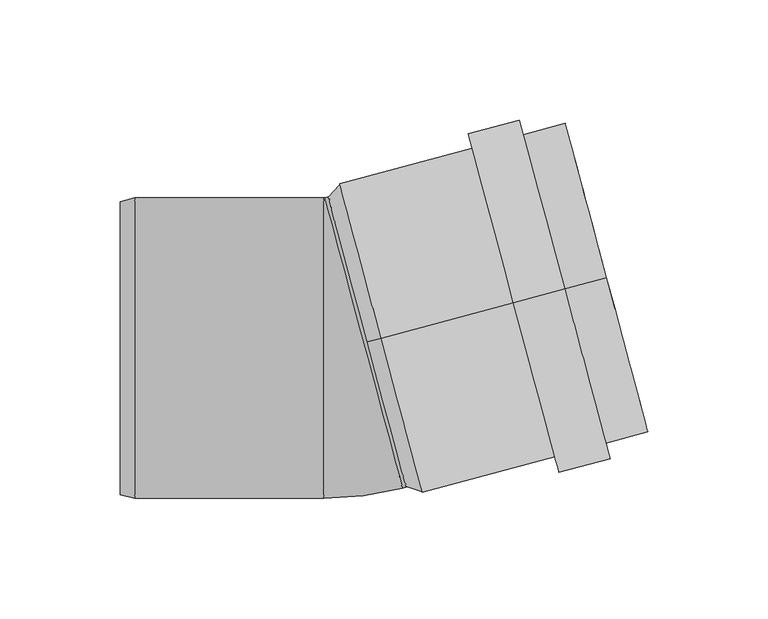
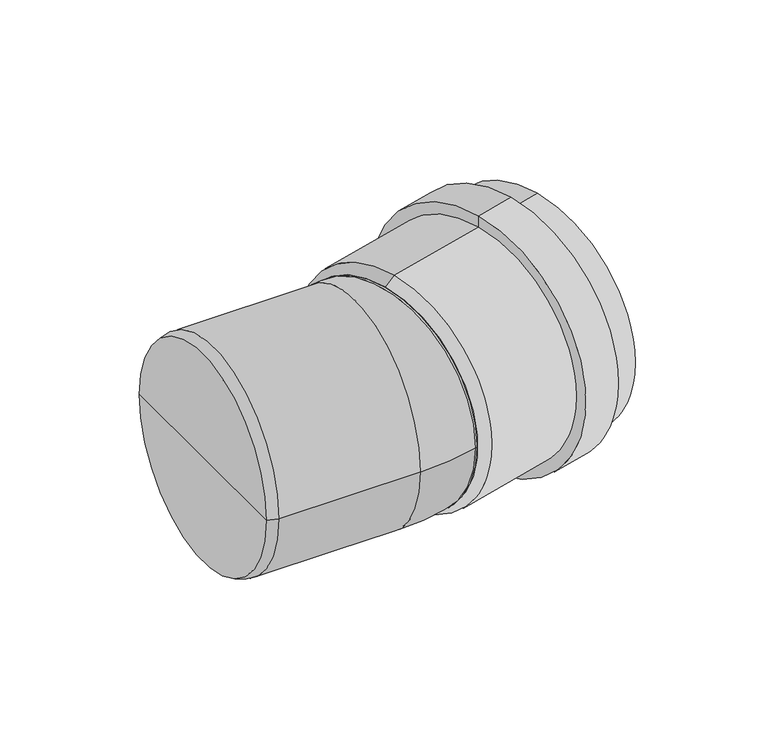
"""IFC4 building model written with IfcOpenShell, lengths in millimetres: pipe fitting geometry, OSMA_KG2000_PPKGB : Koleno 15°."""

import ifcopenshell
import ifcopenshell.guid

model = None  # the IFC model being written
_history = None  # IfcOwnerHistory: only IFC2X3 demands one
_inside = {}  # id of a spatial element -> (the spatial element, [elements in it])
_under = {}  # id of a project, library or spatial element -> (it, [spatial elements below it])
_declared = {}  # id of a project -> (the project, [libraries it declares])
_typed = {}  # id of a type object -> (the type object, [elements of that type])
_made_of = {}  # id of a material, layer set ... -> (it, [elements and type objects made of it])


def new_model(schema):
    """Start an empty IFC model of exactly this schema.

    Asked for "IFC4X3", IfcOpenShell would pick the latest addendum, in which some entities
    have other attributes; the version numbers below select the first issue.
    IFC2X3 requires an IfcOwnerHistory on every rooted entity: one is made here for all.
    """
    global model, _history
    if schema == "IFC4X3":
        model = ifcopenshell.file(schema_version=(4, 3, 0, 0))
    else:
        model = ifcopenshell.file(schema=schema)
    _inside.clear()
    _under.clear()
    _declared.clear()
    _typed.clear()
    _made_of.clear()
    _history = None
    if model.schema == "IFC2X3":
        org = make("IfcOrganization", Name="unknown")
        user = make(
            "IfcPersonAndOrganization",
            ThePerson=make("IfcPerson", FamilyName="unknown"),
            TheOrganization=org,
        )
        app = make(
            "IfcApplication",
            ApplicationDeveloper=org,
            Version="unknown",
            ApplicationFullName="unknown",
            ApplicationIdentifier="unknown",
        )
        _history = make(
            "IfcOwnerHistory",
            OwningUser=user,
            OwningApplication=app,
            ChangeAction="ADDED",
            CreationDate=0,
        )
    return model


def make(cls, **values):
    """One entity of the class cls with the attributes given. An attribute that is None is left unset."""
    return model.create_entity(
        cls, **{name: value for name, value in values.items() if value is not None}
    )


def rooted(cls, **values):
    """An entity with a GlobalId (a new one), such as an element, a storey or a relation."""
    return make(cls, GlobalId=ifcopenshell.guid.new(), OwnerHistory=_history, **values)


def si_unit(unit_type, name, prefix=None):
    """IfcSIUnit, for example si_unit("LENGTHUNIT", "METRE", prefix="MILLI")."""
    return make("IfcSIUnit", UnitType=unit_type, Prefix=prefix, Name=name)


def assignment(units):
    """IfcUnitAssignment: the units of a project."""
    return None if units is None else make("IfcUnitAssignment", Units=units)


def point(xyz):
    """IfcCartesianPoint."""
    return None if xyz is None else make("IfcCartesianPoint", Coordinates=xyz)


def direction(xyz):
    """IfcDirection."""
    return None if xyz is None else make("IfcDirection", DirectionRatios=xyz)


def frame(location, z_axis=None, x_axis=None):
    """IfcAxis2Placement3D, a coordinate frame: its origin and axes. An axis left out is left unset."""
    return make(
        "IfcAxis2Placement3D",
        Location=point(location),
        Axis=direction(z_axis),
        RefDirection=direction(x_axis),
    )


def origin():
    """The frame at (0, 0, 0) with its axes left unset."""
    return frame((0.0, 0.0, 0.0))


def place(relative_to, where):
    """IfcLocalPlacement: puts the frame where relative to a parent placement (None: the world)."""
    return make(
        "IfcLocalPlacement", PlacementRelTo=relative_to, RelativePlacement=where
    )


def context(
    kind, dimensions, precision=None, world=None, true_north=None, identifier=None
):
    """IfcGeometricRepresentationContext, for example the 3D "Model" context."""
    return make(
        "IfcGeometricRepresentationContext",
        ContextIdentifier=identifier,
        ContextType=kind,
        CoordinateSpaceDimension=dimensions,
        Precision=precision,
        WorldCoordinateSystem=world,
        TrueNorth=true_north,
    )


def project(units=None, contexts=None):
    """IfcProject with its units and contexts."""
    return rooted(
        "IfcProject",
        Name="project",
        RepresentationContexts=contexts,
        UnitsInContext=assignment(units),
    )


def spatial(cls, under=None, at=None, **own):
    """A site, building, storey or space (cls), placed at a placement, below another one or the project."""
    s = rooted(cls, ObjectPlacement=at, **own)
    if under is not None:
        _under.setdefault(under.id(), (under, []))[1].append(s)
    return s


def polyline(points):
    """IfcPolyline through the points."""
    return make("IfcPolyline", Points=[point(p) for p in points])


def circle_curve(where, radius):
    """IfcCircle in the frame where."""
    return make("IfcCircle", Position=where, Radius=radius)


def ellipse_curve(where, semi_axis1, semi_axis2):
    """IfcEllipse in the frame where."""
    return make(
        "IfcEllipse", Position=where, SemiAxis1=semi_axis1, SemiAxis2=semi_axis2
    )


def trimmed(basis, trim1, trim2, sense, master):
    """IfcTrimmedCurve: the piece of a basis curve between two trims."""
    return make(
        "IfcTrimmedCurve",
        BasisCurve=basis,
        Trim1=trim1,
        Trim2=trim2,
        SenseAgreement=sense,
        MasterRepresentation=master,
    )


def shape(context_of_items, identifier, shape_type, items):
    """IfcShapeRepresentation: the items that make up one representation, for example the "Body"."""
    return make(
        "IfcShapeRepresentation",
        ContextOfItems=context_of_items,
        RepresentationIdentifier=identifier,
        RepresentationType=shape_type,
        Items=items,
    )


def source(mapping_origin, context_of_items, identifier, shape_type, items):
    """IfcRepresentationMap: a shape defined once, which mapped items show again and again."""
    return make(
        "IfcRepresentationMap",
        MappingOrigin=mapping_origin,
        MappedRepresentation=shape(context_of_items, identifier, shape_type, items),
    )


def transform(
    local_origin,
    x_axis=None,
    y_axis=None,
    z_axis=None,
    scale=None,
    scale2=None,
    scale3=None,
    uniform=True,
):
    """IfcCartesianTransformationOperator3D, or its non-uniform kind. x_axis, y_axis, z_axis: its Axis1, 2, 3."""
    if uniform:
        return make(
            "IfcCartesianTransformationOperator3D",
            Axis1=direction(x_axis),
            Axis2=direction(y_axis),
            LocalOrigin=point(local_origin),
            Scale=scale,
            Axis3=direction(z_axis),
        )
    return make(
        "IfcCartesianTransformationOperator3DnonUniform",
        Axis1=direction(x_axis),
        Axis2=direction(y_axis),
        LocalOrigin=point(local_origin),
        Scale=scale,
        Axis3=direction(z_axis),
        Scale2=scale2,
        Scale3=scale3,
    )


def mapped(mapping_source, mapping_target):
    """IfcMappedItem: shows the shape of a source again, moved by a transform."""
    return make(
        "IfcMappedItem", MappingSource=mapping_source, MappingTarget=mapping_target
    )


def made_of(thing, what):
    """Note that an element or type object is made of a material, layer set ...; save() writes the relation."""
    if what is not None:
        _made_of.setdefault(what.id(), (what, []))[1].append(thing)
    return thing


def element(
    cls,
    number,
    at=None,
    inside=None,
    cuts=None,
    type_object=None,
    material=None,
    context=None,
    identifier="Body",
    shape_type=None,
    held_by="IfcProductDefinitionShape",
    body=None,
    shapes=None,
    **own,
):
    """One element of the class cls, such as IfcWall. Its Tag is "e" and its number.

    at: its placement. inside: the storey or other place that contains it. cuts: it is an
    opening in that element (IfcRelVoidsElement). A single representation is given by context,
    identifier, shape_type and body (its items); several are given by shapes. held_by: the class
    of the entity that holds the representations. save() writes the other relations.
    """
    e = rooted(cls, Tag="e%d" % number, ObjectPlacement=at, **own)
    if body is not None:
        shapes = [shape(context, identifier, shape_type, body)]
    if shapes is not None:
        e.Representation = make(held_by, Representations=shapes)
    if inside is not None:
        _inside.setdefault(inside.id(), (inside, []))[1].append(e)
    if cuts is not None:
        rooted(
            "IfcRelVoidsElement", RelatingBuildingElement=cuts, RelatedOpeningElement=e
        )
    if type_object is not None:
        _typed.setdefault(type_object.id(), (type_object, []))[1].append(e)
    return made_of(e, material)


def aggregate(whole, parts):
    """IfcRelAggregates: a whole, such as a stair, and the parts it consists of."""
    return rooted("IfcRelAggregates", RelatingObject=whole, RelatedObjects=parts)


def save(model, path):
    """Write the relations noted so far, then the file.

    IfcRelAggregates (storeys below a building ...), IfcRelContainedInSpatialStructure (elements
    in a storey), IfcRelDefinesByType, IfcRelAssociatesMaterial and IfcRelDeclares: one each for
    every whole, place, type object, material and project.
    """
    for whole, parts in _under.values():
        aggregate(whole, parts)
    for where, things in _inside.values():
        rooted(
            "IfcRelContainedInSpatialStructure",
            RelatedElements=things,
            RelatingStructure=where,
        )
    for kind, things in _typed.values():
        rooted("IfcRelDefinesByType", RelatedObjects=things, RelatingType=kind)
    for what, things in _made_of.values():
        rooted("IfcRelAssociatesMaterial", RelatedObjects=things, RelatingMaterial=what)
    for by, libraries in _declared.values():
        rooted("IfcRelDeclares", RelatingContext=by, RelatedDefinitions=libraries)
    model.write(path)


def plane_surface(at):
    """IfcPlane: the flat surface through the origin of the frame at, square to its z axis."""
    return make("IfcPlane", Position=at)


def cylinder_surface(at, radius):
    """IfcCylindricalSurface: all points at the distance radius from the z axis of the frame at."""
    return make("IfcCylindricalSurface", Position=at, Radius=radius)


def revolved_surface(curve, axis_point, axis_direction):
    """IfcSurfaceOfRevolution: the curve turned about the line through axis_point along axis_direction."""
    return make(
        "IfcSurfaceOfRevolution",
        SweptCurve=make("IfcArbitraryOpenProfileDef", ProfileType="CURVE", Curve=curve),
        AxisPosition=make("IfcAxis1Placement", Location=point(axis_point), Axis=direction(axis_direction)),
    )


def advanced_brep(points, edges, surfaces, faces):
    """IfcAdvancedBrep: a solid bounded by faces that lie on surfaces and meet in shared edges.

    An edge is (start, end): straight between two places in points (the first is 0);
    or (start, end, curve); or (start, end, curve, False) where it runs against its curve.
    A face is (place in surfaces, loops), or (place, loops, False) where it looks against
    its surface's normal. A loop lists edges by number (the first is 1), with a minus sign
    where the edge is run from its end to its start. The first loop is the outer one.
    """
    corners = [point(p) for p in points]
    vertices = [make("IfcVertexPoint", VertexGeometry=c) for c in corners]
    made = []
    for start, end, *more in edges:
        made.append(
            make(
                "IfcEdgeCurve",
                EdgeStart=vertices[start],
                EdgeEnd=vertices[end],
                EdgeGeometry=more[0] if more else make("IfcPolyline", Points=[corners[start], corners[end]]),
                SameSense=more[1] if len(more) > 1 else True,
            )
        )
    hull = []
    for where, loops, *sense in faces:
        bounds = []
        for j, loop in enumerate(loops):
            ring = [make("IfcOrientedEdge", EdgeElement=made[abs(k) - 1], Orientation=k > 0) for k in loop]
            bounds.append(
                make(
                    "IfcFaceOuterBound" if j == 0 else "IfcFaceBound",
                    Bound=make("IfcEdgeLoop", EdgeList=ring),
                    Orientation=True,
                )
            )
        hull.append(make("IfcAdvancedFace", Bounds=bounds, FaceSurface=surfaces[where], SameSense=sense[0] if sense else True))
    return make("IfcAdvancedBrep", Outer=make("IfcClosedShell", CfsFaces=hull))


def pipe_fitting_7dff9b4a(model_context):
    return source(origin(), model_context, "Body", "AdvancedBrep", [
        advanced_brep(
        [(15.4548132, 4.1411047, 62.5), (15.4548132, 4.1411047, -62.5), (109.1496184, 29.2465521, -62.5), (109.1496184, 29.2465521, 62.5), (70.5125853, 18.8937903, 66.4), (70.5125853, 18.8937903, -66.4), (15.4548132, 4.1411047, -66.4), (15.4548132, 4.1411047, 66.4), (70.5125853, 18.8937903, 73.0), (70.5125853, 18.8937903, -73.0), (91.7629535, 24.5878093, 73.0), (91.7629535, 24.5878093, -73.0), (91.7629535, 24.5878093, 66.4), (91.7629535, 24.5878093, -66.4), (109.1496184, 29.2465521, 66.4), (109.1496184, 29.2465521, -66.4), (9.6592583, 2.5881905, 58.6), (9.6592583, 2.5881905, -58.6), (9.6592583, 2.5881905, 62.5), (9.6592583, 2.5881905, -62.5)],
        [
            (0, 1, circle_curve(frame((15.4548132, 4.1411047, 0.0), z_axis=(-0.9659258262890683, -0.2588190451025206, 0.0), x_axis=(0.0, 0.0, -1.0)), 62.5)),
            (1, 2),
            (2, 3, circle_curve(frame((109.1496184, 29.2465521, 0.0), z_axis=(0.9659258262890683, 0.2588190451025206, 0.0), x_axis=(0.0, 0.0, -1.0)), 62.5)),
            (3, 0),
            (1, 0, circle_curve(frame((15.4548132, 4.1411047, 0.0), z_axis=(-0.9659258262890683, -0.2588190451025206, 0.0), x_axis=(0.0, 0.0, -1.0)), 62.5)),
            (3, 2, circle_curve(frame((109.1496184, 29.2465521, 0.0), z_axis=(0.9659258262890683, 0.2588190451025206, 0.0), x_axis=(0.0, 0.0, -1.0)), 62.5)),
            (4, 5, circle_curve(frame((70.5125853, 18.8937903, 0.0), z_axis=(-0.9659258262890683, -0.2588190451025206, 0.0), x_axis=(0.0, 0.0, -1.0)), 66.4)),
            (5, 6),
            (6, 7, circle_curve(frame((15.4548132, 4.1411047, 0.0), z_axis=(0.9659258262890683, 0.2588190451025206, 0.0), x_axis=(0.0, 0.0, -1.0)), 66.4)),
            (7, 4),
            (5, 4, circle_curve(frame((70.5125853, 18.8937903, 0.0), z_axis=(-0.9659258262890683, -0.2588190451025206, 0.0), x_axis=(0.0, 0.0, -1.0)), 66.4)),
            (7, 6, circle_curve(frame((15.4548132, 4.1411047, 0.0), z_axis=(0.9659258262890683, 0.2588190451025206, 0.0), x_axis=(0.0, 0.0, -1.0)), 66.4)),
            (8, 9, circle_curve(frame((70.5125853, 18.8937903, 0.0), z_axis=(-0.9659258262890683, -0.2588190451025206, 0.0), x_axis=(0.0, 0.0, -1.0)), 73.0)),
            (9, 5),
            (4, 8),
            (9, 8, circle_curve(frame((70.5125853, 18.8937903, 0.0), z_axis=(-0.9659258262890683, -0.2588190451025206, 0.0), x_axis=(0.0, 0.0, -1.0)), 73.0)),
            (10, 11, circle_curve(frame((91.7629535, 24.5878093, 0.0), z_axis=(-0.9659258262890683, -0.2588190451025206, 0.0), x_axis=(0.0, 0.0, -1.0)), 73.0)),
            (11, 9),
            (8, 10),
            (11, 10, circle_curve(frame((91.7629535, 24.5878093, 0.0), z_axis=(-0.9659258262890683, -0.2588190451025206, 0.0), x_axis=(0.0, 0.0, -1.0)), 73.0)),
            (12, 13, circle_curve(frame((91.7629535, 24.5878093, 0.0), z_axis=(-0.9659258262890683, -0.2588190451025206, 0.0), x_axis=(0.0, 0.0, -1.0)), 66.4)),
            (13, 11),
            (10, 12),
            (13, 12, circle_curve(frame((91.7629535, 24.5878093, 0.0), z_axis=(-0.9659258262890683, -0.2588190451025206, 0.0), x_axis=(0.0, 0.0, -1.0)), 66.4)),
            (14, 15, circle_curve(frame((109.1496184, 29.2465521, 0.0), z_axis=(-0.9659258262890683, -0.2588190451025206, 0.0), x_axis=(0.0, 0.0, -1.0)), 66.4)),
            (15, 13),
            (12, 14),
            (15, 14, circle_curve(frame((109.1496184, 29.2465521, 0.0), z_axis=(-0.9659258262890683, -0.2588190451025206, 0.0), x_axis=(0.0, 0.0, -1.0)), 66.4)),
            (2, 15),
            (14, 3),
            (16, 17, circle_curve(frame((9.6592583, 2.5881905, 0.0), z_axis=(-0.9659258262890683, -0.2588190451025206, 0.0), x_axis=(0.0, 0.0, -1.0)), 58.6)),
            (17, 1),
            (0, 16),
            (17, 16, circle_curve(frame((9.6592583, 2.5881905, 0.0), z_axis=(-0.9659258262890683, -0.2588190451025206, 0.0), x_axis=(0.0, 0.0, -1.0)), 58.6)),
            (18, 19, circle_curve(frame((9.6592583, 2.5881905, 0.0), z_axis=(-0.9659258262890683, -0.2588190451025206, 0.0), x_axis=(0.0, 0.0, -1.0)), 62.5)),
            (19, 17),
            (16, 18),
            (19, 18, circle_curve(frame((9.6592583, 2.5881905, 0.0), z_axis=(-0.9659258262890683, -0.2588190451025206, 0.0), x_axis=(0.0, 0.0, -1.0)), 62.5)),
            (6, 19),
            (18, 7),
        ],
        [
            revolved_surface(polyline([(109.14961839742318, 29.246552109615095, -62.5), (15.454813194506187, 4.141104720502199, -62.5)]), (2687.6637099, 720.1573206, 0.0), (0.9659258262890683, 0.2588190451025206, 0.0)),
            cylinder_surface(frame((2687.6637099, 720.1573206, 0.0), z_axis=(0.9659258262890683, 0.2588190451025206, 0.0), x_axis=(0.0, 0.0, -1.0)), 66.4),
            plane_surface(frame((70.5125853, 18.8937903, 0.0), z_axis=(-0.9659258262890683, -0.2588190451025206, 0.0), x_axis=(0.0, 0.0, -1.0))),
            cylinder_surface(frame((2687.6637099, 720.1573206, 0.0), z_axis=(0.9659258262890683, 0.2588190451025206, 0.0), x_axis=(0.0, 0.0, -1.0)), 73.0),
            plane_surface(frame((91.7629535, 24.5878093, 0.0), z_axis=(0.9659258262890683, 0.2588190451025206, 0.0), x_axis=(0.0, 0.0, -1.0))),
            plane_surface(frame((109.1496184, 29.2465521, 0.0), z_axis=(0.9659258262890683, 0.2588190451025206, 0.0), x_axis=(0.0, 0.0, -1.0))),
            revolved_surface(polyline([(15.4548132, 4.1411047, -62.5), (9.6592583, 2.5881905, -58.6)]), (2687.6637099, 720.1573206, 0.0), (0.9659258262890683, 0.2588190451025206, 0.0)),
            plane_surface(frame((9.6592583, 2.5881905, 0.0), z_axis=(-0.9659258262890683, -0.2588190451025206, 0.0), x_axis=(0.0, 0.0, -1.0))),
            revolved_surface(polyline([(9.6592583, 2.5881905, -62.5), (15.4548132, 4.1411047, -66.4)]), (2687.6637099, 720.1573206, 0.0), (0.9659258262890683, 0.2588190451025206, 0.0)),
        ],
        [
            (0, [[1, 2, 3, 4]]),
            (0, [[5, -4, 6, -2]]),
            (1, [[7, 8, 9, 10]]),
            (1, [[11, -10, 12, -8]]),
            (2, [[13, 14, -7, 15]]),
            (2, [[16, -15, -11, -14]]),
            (3, [[17, 18, -13, 19]]),
            (3, [[20, -19, -16, -18]]),
            (4, [[21, 22, -17, 23]]),
            (4, [[24, -23, -20, -22]]),
            (1, [[25, 26, -21, 27]]),
            (1, [[28, -27, -24, -26]]),
            (5, [[-3, 29, -25, 30]]),
            (5, [[-6, -30, -28, -29]]),
            (6, [[31, 32, -1, 33]]),
            (6, [[34, -33, -5, -32]]),
            (7, [[35, 36, -31, 37]]),
            (7, [[38, -37, -34, -36]]),
            (8, [[-9, 39, -35, 40]]),
            (8, [[-12, -40, -38, -39]]),
        ],
    ),
        advanced_brep(
        [(-93.0, 0.0, 0.0), (-93.0, 60.8923048, 0.0), (-93.0, -60.8923048, 0.0), (-87.0, 62.5, 0.0), (-87.0, -62.5, 0.0), (-8.0375313, 62.5511113, 0.0), (-8.4257598, 62.5, 0.0), (-8.4257598, -62.5, 0.0), (24.3148494, -58.189617, 0.0), (8.138659, 2.1807471, 62.5), (8.138659, 2.1807471, -62.5), (31.6310035, -56.2292594, 0.0), (-0.7213771, 64.5114689, 0.0)],
        [
            (0, 1),
            (1, 2, circle_curve(frame((-93.0, 0.0, 0.0), z_axis=(-1.0, 0.0, 0.0), x_axis=(0.0, 1.0, 0.0)), 60.8923048)),
            (2, 0),
            (2, 1, circle_curve(frame((-93.0, 0.0, 0.0), z_axis=(-1.0, 0.0, 0.0), x_axis=(0.0, 1.0, 0.0)), 60.8923048)),
            (1, 3),
            (3, 4, circle_curve(frame((-87.0, 0.0, 0.0), z_axis=(-1.0, 0.0, 0.0), x_axis=(0.0, 1.0, 0.0)), 62.5)),
            (4, 2),
            (4, 3, circle_curve(frame((-87.0, 0.0, 0.0), z_axis=(-1.0, 0.0, 0.0), x_axis=(0.0, 1.0, 0.0)), 62.5)),
            (5, 6, circle_curve(frame((-8.4257598, 64.0, 0.0), z_axis=(0.0, 0.0, -1.0), x_axis=(0.0, -1.0, 0.0)), 1.5)),
            (6, 7, circle_curve(frame((-8.4257598, 0.0, 0.0), z_axis=(1.0, 0.0, 0.0), x_axis=(0.0, 1.0, 0.0)), 62.5)),
            (7, 8, circle_curve(frame((-8.4257598, 64.0, 0.0), z_axis=(0.0, 0.0, 1.0), x_axis=(0.0, -1.0, 0.0)), 126.5)),
            (8, 9, circle_curve(frame((8.138659, 2.1807471, 0.0), z_axis=(-0.9659258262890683, -0.2588190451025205, 0.0), x_axis=(-0.2588190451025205, 0.9659258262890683, 0.0)), 62.5)),
            (9, 5, circle_curve(frame((8.138659, 2.1807471, 0.0), z_axis=(-0.9659258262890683, -0.2588190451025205, 0.0), x_axis=(-0.2588190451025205, 0.9659258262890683, 0.0)), 62.5)),
            (5, 10, circle_curve(frame((8.138659, 2.1807471, 0.0), z_axis=(-0.9659258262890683, -0.2588190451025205, 0.0), x_axis=(-0.2588190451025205, 0.9659258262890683, 0.0)), 62.5)),
            (10, 8, circle_curve(frame((8.138659, 2.1807471, 0.0), z_axis=(-0.9659258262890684, -0.2588190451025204, 0.0), x_axis=(-0.2588190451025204, 0.9659258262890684, 0.0)), 62.5)),
            (7, 6, circle_curve(frame((-8.4257598, 0.0, 0.0), z_axis=(1.0, 0.0, 0.0), x_axis=(0.0, 1.0, 0.0)), 62.5)),
            (3, 6),
            (7, 4),
            (11, 12, circle_curve(frame((15.4548132, 4.1411047, 0.0), z_axis=(0.9659258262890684, 0.2588190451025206, 0.0), x_axis=(-0.2588190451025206, 0.9659258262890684, 0.0)), 62.5)),
            (12, 11, circle_curve(frame((15.4548132, 4.1411047, 0.0), z_axis=(0.9659258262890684, 0.2588190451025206, 0.0), x_axis=(-0.2588190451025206, 0.9659258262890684, 0.0)), 62.5)),
            (12, 5),
            (8, 11),
        ],
        [
            plane_surface(frame((-93.0, 0.0, 0.0), z_axis=(-1.0, 0.0, 0.0), x_axis=(0.0, 1.0, 0.0))),
            revolved_surface(polyline([(-87.0, 62.5, 0.0), (-93.0, 60.8923048, 0.0)]), (331.0587718, 0.0, 0.0), (-1.0, 0.0, 0.0)),
            revolved_surface(trimmed(ellipse_curve(frame((-8.4257598, 0.0, 0.0), z_axis=(-1.0, 0.0, 0.0), x_axis=(0.0, 1.0, 0.0)), 62.5, 62.5), [point((-8.4257598, -62.5, 0.0))], [point((-8.4257598, 62.5, 0.0))], True, "CARTESIAN"), (-8.4257598, 64.0, 0.0), (0.0, 0.0, 1.0)),
            revolved_surface(trimmed(ellipse_curve(frame((-8.4257598, 0.0, 0.0), z_axis=(-1.0, 0.0, 0.0), x_axis=(0.0, 1.0, 0.0)), 62.5, 62.5), [point((-8.4257598, 62.5, 0.0))], [point((-8.4257598, -62.5, 0.0))], True, "CARTESIAN"), (-8.4257598, 64.0, 0.0), (0.0, 0.0, 1.0)),
            cylinder_surface(frame((331.0587718, 0.0, 0.0), z_axis=(-1.0, 0.0, 0.0), x_axis=(0.0, 1.0, 0.0)), 62.5),
            plane_surface(frame((15.4548132, 4.1411047, 0.0), z_axis=(0.9659258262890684, 0.2588190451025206, 0.0), x_axis=(0.0, 0.0, 1.0))),
            cylinder_surface(frame((8.138659, 2.1807471, 0.0), z_axis=(-0.9659258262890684, -0.2588190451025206, 0.0), x_axis=(-0.2588190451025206, 0.9659258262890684, 0.0)), 62.5),
        ],
        [
            (0, [[1, 2, 3]]),
            (0, [[-1, -3, 4]]),
            (1, [[-2, 5, 6, 7]]),
            (1, [[-4, -7, 8, -5]]),
            (2, [[9, 10, 11, 12, 13]]),
            (3, [[-9, 14, 15, -11, 16]]),
            (4, [[-6, 17, -16, 18]]),
            (4, [[-8, -18, -10, -17]]),
            (5, [[19, 20]]),
            (6, [[-20, 21, -13, -12, 22]]),
            (6, [[-19, -22, -15, -14, -21]]),
        ],
    ),
    ])


if __name__ == "__main__":
    model = new_model("IFC4")
    model_context = context("Model", 3, world=origin())
    ifc_project = project(units=[si_unit("LENGTHUNIT", "METRE", prefix="MILLI")], contexts=[model_context])
    site = spatial("IfcSite", under=ifc_project)
    building = spatial("IfcBuilding", under=site)
    placement = place(None, origin())
    pipe_fitting_shape = pipe_fitting_7dff9b4a(model_context)
    element("IfcPipeFitting", 1, ObjectType="OSMA_KG2000_PPKGB : Koleno 15°", at=placement, inside=building, context=model_context, shape_type="MappedRepresentation", body=[
        mapped(pipe_fitting_shape, transform((0.0, 0.0, 0.0), x_axis=(1.0, 0.0, 0.0), y_axis=(0.0, 1.0, 0.0), z_axis=(0.0, 0.0, 1.0))),
    ])
    save(model, "model.ifc")
